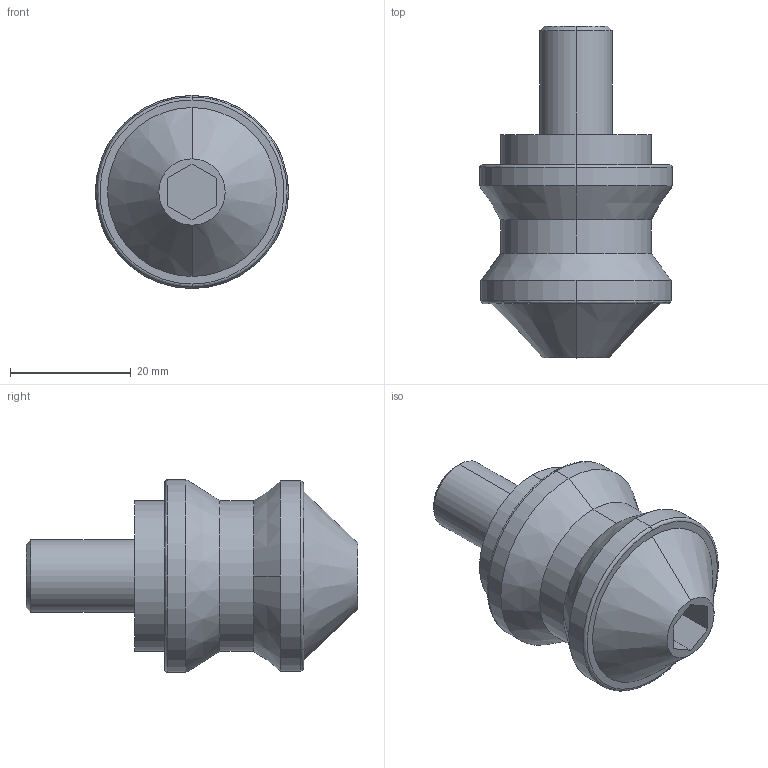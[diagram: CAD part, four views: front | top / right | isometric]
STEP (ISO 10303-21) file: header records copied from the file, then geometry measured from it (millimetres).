
FILE_DESCRIPTION (( 'STEP AP214' ), '1' );
FILE_NAME ('SJJT-20.STEP', '2023-11-13T02:32:55', ( '' ), ( '' ), 'SwSTEP 2.0', 'SolidWorks 2018', '' );
FILE_SCHEMA (( 'AUTOMOTIVE_DESIGN' ));
Length unit declared in the file: millimetre
Products named in the file (1): SJJT-20
Bounding box: 32 x 55 x 32 mm (x, y, z)
Volume: 21790.8 mm3; surface area: 8248.3 mm2
Topology: 2 solids, 2 shells, 43 faces, 96 edges, 60 vertices
Faces by surface type: cylinder 14, plane 13, cone 12, bspline 4
Entity records: 1293 total; most frequent: CARTESIAN_POINT 272, DIRECTION 220, ORIENTED_EDGE 192, EDGE_CURVE 96, AXIS2_PLACEMENT_3D 88, VERTEX_POINT 60, EDGE_LOOP 48, CIRCLE 48
